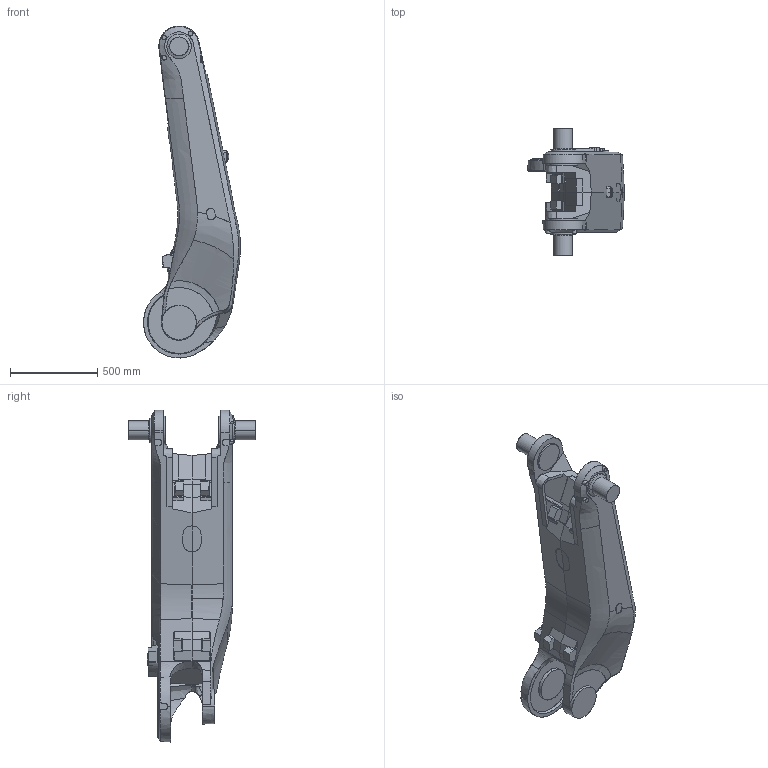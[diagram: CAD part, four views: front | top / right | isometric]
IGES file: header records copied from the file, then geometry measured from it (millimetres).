
Start section: SolidWorks IGES file using analytic representation for surfaces
Global section: file name: B:\DM\Robotics\SEROP_PROJ\Product Development\DevelopmentProjects\HD\3_Design PRMD\4_Struktur SAP o CAD\Lättmodeller\IRB8700_550-420\IRB8700_550-420_IRC5_IGES_j\IRB8700_550-420_IRC5_rev00_LINK2_CAD.IGS; native system: SolidWorks 2014; preprocessor: SolidWorks 2014; author: sepehak; date: 150604.100729; units: millimetre
Bounding box: 554.49 x 726 x 1899.81 mm (x, y, z)
Surface area: 3255554.7 mm2 (no closed solid volume)
Topology: 0 solids, 0 shells, 428 faces, 9037 edges, 9037 vertices
Faces by surface type: bspline 308, revolution 120
